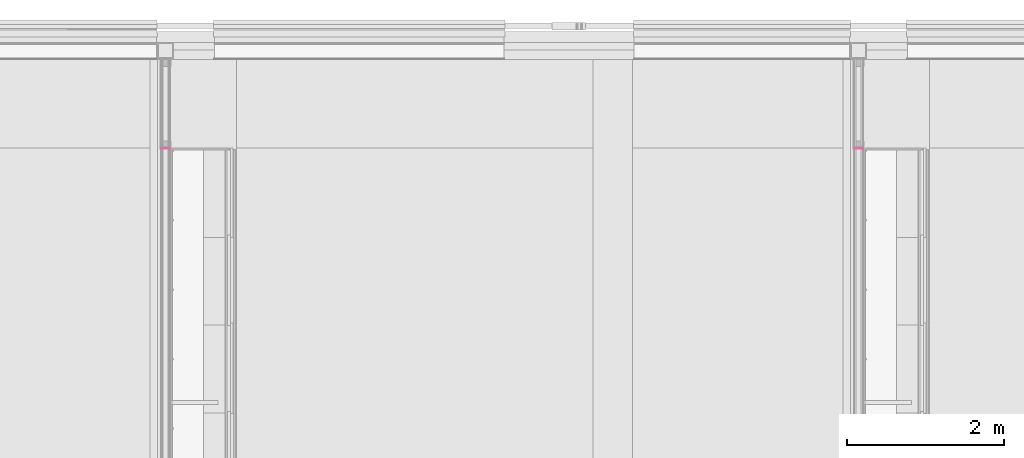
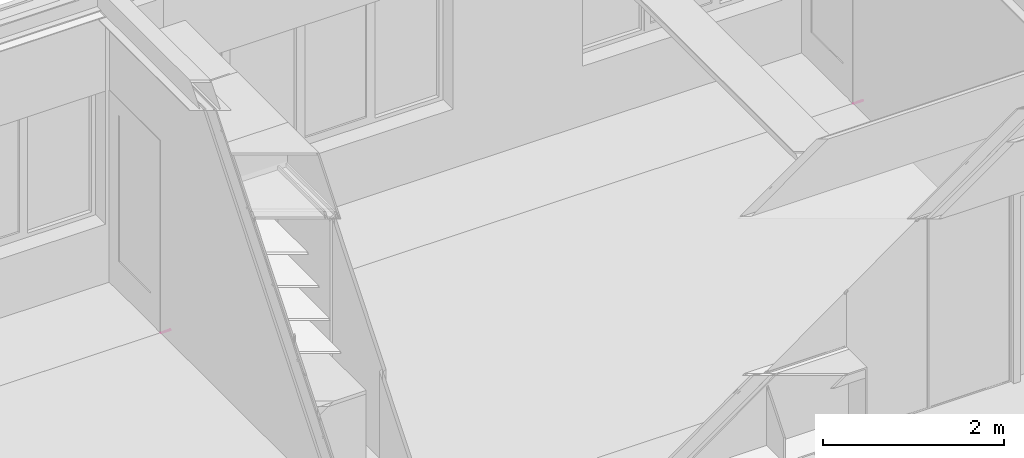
# One storey, part 113 of 137: 2 furnishings.
"""IFC2X3 building model written with IfcOpenShell, lengths in millimetres."""

from ifc_helpers import new_model, entity, si_unit, converted_unit, derived_unit, money_unit, direction, frame, origin_with_axes, place, context, subcontext, project, spatial, faceted_brep, material, type_object, element, save


model = new_model("IFC2X3")

# Units and contexts
model_context = context("Model", 3, precision=0.01, world=origin_with_axes(), true_north=direction((0.0, 1.0)))
body_context = subcontext(model_context, "Body", "Model", "MODEL_VIEW")
ifc_project = project(units=[si_unit("LENGTHUNIT", "METRE", prefix="MILLI"), si_unit("AREAUNIT", "SQUARE_METRE"), si_unit("VOLUMEUNIT", "CUBIC_METRE"), converted_unit("PLANEANGLEUNIT", "DEGREE", entity("IfcPlaneAngleMeasure", 0.0174532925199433), si_unit("PLANEANGLEUNIT", "RADIAN"), dimensions=[0, 0, 0, 0, 0, 0, 0]), money_unit("EUR"), converted_unit("TIMEUNIT", "Year", entity("IfcTimeMeasure", 31556926.0), si_unit("TIMEUNIT", "SECOND"), dimensions=[0, 0, 1, 0, 0, 0, 0]), si_unit("MASSUNIT", "GRAM", prefix="KILO"), si_unit("THERMODYNAMICTEMPERATUREUNIT", "DEGREE_CELSIUS"), si_unit("LUMINOUSINTENSITYUNIT", "LUMEN"), si_unit("ENERGYUNIT", "JOULE", prefix="MEGA"), derived_unit("THERMALCONDUCTANCEUNIT", [(si_unit("POWERUNIT", "WATT"), 1), (si_unit("LENGTHUNIT", "METRE"), -1), (si_unit("THERMODYNAMICTEMPERATUREUNIT", "KELVIN"), -1)]), derived_unit("SPECIFICHEATCAPACITYUNIT", [(si_unit("ENERGYUNIT", "JOULE"), 1), (si_unit("MASSUNIT", "GRAM", prefix="KILO"), -1), (si_unit("THERMODYNAMICTEMPERATUREUNIT", "KELVIN"), -1)]), derived_unit("MASSDENSITYUNIT", [(si_unit("MASSUNIT", "GRAM", prefix="KILO"), 1), (si_unit("VOLUMEUNIT", "CUBIC_METRE"), -1)])], contexts=[model_context])

# Site, building, storey
site_placement = place(None, origin_with_axes())
site = spatial("IfcSite", under=ifc_project, at=site_placement, Name="Site", CompositionType="ELEMENT")
building_placement = place(site_placement, origin_with_axes())
building = spatial("IfcBuilding", under=site, at=building_placement, Name="Naam gebouw", CompositionType="ELEMENT")
storey_placement = place(building_placement, frame((0.0, 0.0, 3960.0), z_axis=(0.0, 0.0, 1.0), x_axis=(1.0, 0.0, 0.0)))
storey = spatial("IfcBuildingStorey", under=building, at=storey_placement, Name="1e verdieping", CompositionType="ELEMENT", Elevation=3960.0)

# Furnishings
ifc_material = material(Name="43 Forbo Walton")
furniture_type = type_object("IfcFurnitureType", Name="43 Forbo Walton 2", AssemblyPlace="NOTDEFINED")
furnishing_1_placement = place(storey_placement, frame((8912.500000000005, 27831.0, 0.0), z_axis=(0.0, 0.0, 1.0), x_axis=(1.0, 0.0, 0.0)))
element("IfcFurnishingElement", 1, at=furnishing_1_placement, inside=storey, type_object=furniture_type, material=ifc_material, Name="72_43 marmoleum", ObjectType="SHELF", context=body_context, shape_type="Brep", body=[
    faceted_brep([(0.0, 0.0, 1.99999999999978), (0.0, 0.0, 0.0), (-125.0, 0.0, 0.0), (-125.0, 0.0, 1.99999999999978), (0.0, -12.49999999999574, 1.99999999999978), (0.0, -12.49999999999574, 0.0), (-125.0, -12.49999999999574, 0.0), (-125.0, -12.49999999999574, 1.99999999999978)], [[[0, 1, 2, 3]], [[4, 5, 1, 0]], [[2, 1, 5, 6]], [[3, 2, 6, 7]], [[4, 0, 3, 7]], [[7, 6, 5, 4]]]),
])
furnishing_2_placement = place(storey_placement, frame((17637.49942456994, 27818.5, 0.0), z_axis=(0.0, 0.0, 1.0), x_axis=(1.0, 0.0, 0.0)))
element("IfcFurnishingElement", 2, at=furnishing_2_placement, inside=storey, type_object=furniture_type, material=ifc_material, Name="72_43 marmoleum", ObjectType="SHELF", context=body_context, shape_type="Brep", body=[
    faceted_brep([(0.0, 0.0, 1.99999999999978), (0.0, 0.0, 0.0), (125.0, 0.0, 0.0), (125.0, 0.0, 1.99999999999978), (0.0, 12.49999999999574, 1.99999999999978), (0.0, 12.49999999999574, 0.0), (125.0, 12.49999999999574, 0.0), (125.0, 12.49999999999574, 1.99999999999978)], [[[0, 1, 2, 3]], [[4, 5, 1, 0]], [[2, 1, 5, 6]], [[3, 2, 6, 7]], [[4, 0, 3, 7]], [[7, 6, 5, 4]]]),
])

save(model, "model.ifc")
